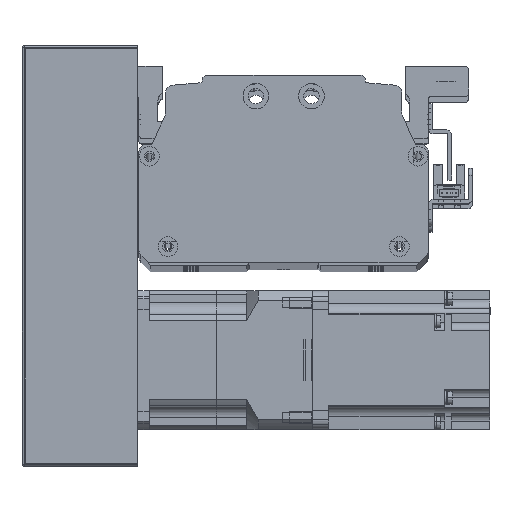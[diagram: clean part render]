
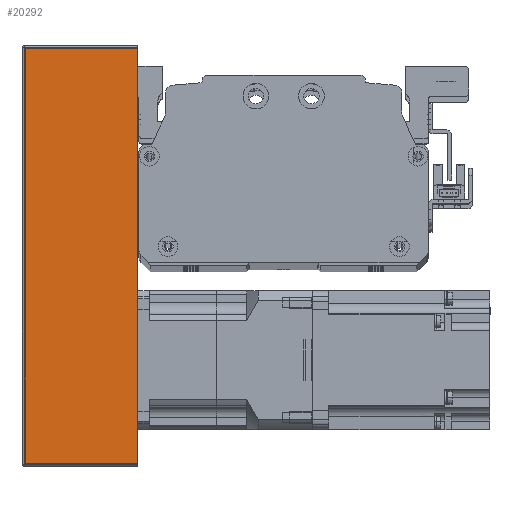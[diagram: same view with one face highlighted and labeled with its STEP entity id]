
A CAD part, top view. The second image highlights one B-rep face of the part: STEP entity #20292.
In plain terms, the highlighted planar face has unit normal (0, 0, 1) as drawn and (0, 1, 0) by its records, which use the part's own axes.
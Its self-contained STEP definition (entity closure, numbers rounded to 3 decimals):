
#609=PLANE('',#22340);
#1812=LINE('',#33489,#3436);
#1829=LINE('',#33543,#3453);
#1834=LINE('',#33567,#3458);
#1853=LINE('',#33630,#3477);
#3436=VECTOR('',#27103,10.);
#3453=VECTOR('',#27156,10.);
#3458=VECTOR('',#27193,10.);
#3477=VECTOR('',#27276,10.);
#5934=FACE_OUTER_BOUND('',#7458,.T.);
#7458=EDGE_LOOP('',(#17529,#17530,#17531,#17532));
#10379=VERTEX_POINT('',#33486);
#10380=VERTEX_POINT('',#33488);
#10398=VERTEX_POINT('',#33540);
#10399=VERTEX_POINT('',#33542);
#12858=EDGE_CURVE('',#10379,#10380,#1812,.T.);
#12886=EDGE_CURVE('',#10398,#10399,#1829,.T.);
#12900=EDGE_CURVE('',#10380,#10398,#1834,.T.);
#12931=EDGE_CURVE('',#10399,#10379,#1853,.T.);
#17529=ORIENTED_EDGE('',*,*,#12886,.F.);
#17530=ORIENTED_EDGE('',*,*,#12900,.F.);
#17531=ORIENTED_EDGE('',*,*,#12858,.F.);
#17532=ORIENTED_EDGE('',*,*,#12931,.F.);
#20292=ADVANCED_FACE('',(#5934),#609,.T.);
#22340=AXIS2_PLACEMENT_3D('',#33629,#27274,#27275);
#27103=DIRECTION('',(-1.,0.,0.));
#27156=DIRECTION('',(1.,0.,0.));
#27193=DIRECTION('',(0.,0.,-1.));
#27274=DIRECTION('center_axis',(0.,1.,0.));
#27275=DIRECTION('ref_axis',(-1.,0.,0.));
#27276=DIRECTION('',(0.,0.,1.));
#33486=CARTESIAN_POINT('',(90.,38.,25.));
#33488=CARTESIAN_POINT('',(-90.,38.,25.));
#33489=CARTESIAN_POINT('',(-91.,38.,25.));
#33540=CARTESIAN_POINT('',(-90.,38.,-24.));
#33542=CARTESIAN_POINT('',(90.,38.,-24.));
#33543=CARTESIAN_POINT('',(45.5,38.,-24.));
#33567=CARTESIAN_POINT('',(-90.,38.,0.));
#33629=CARTESIAN_POINT('Origin',(91.,38.,0.));
#33630=CARTESIAN_POINT('',(90.,38.,0.));
